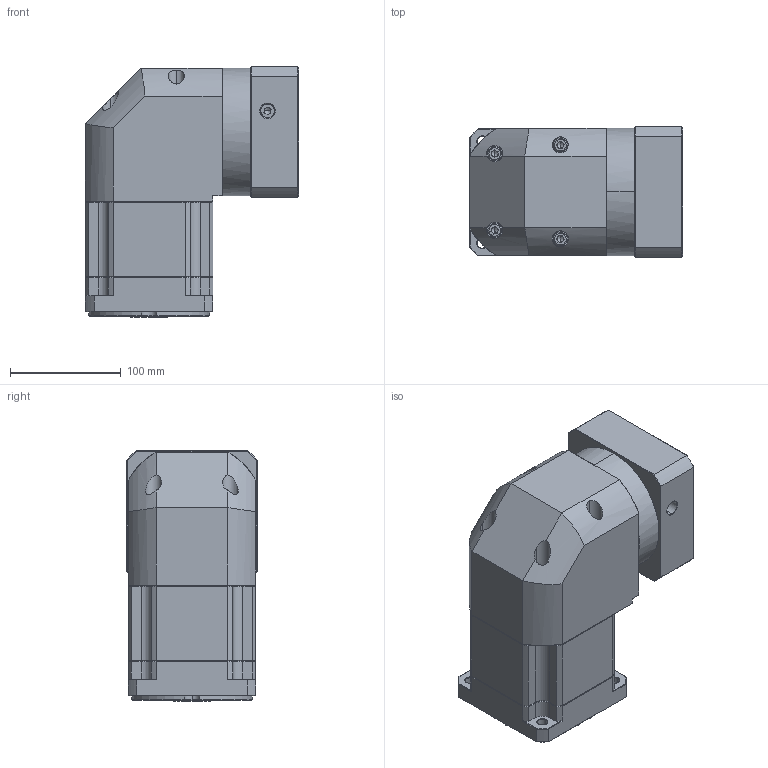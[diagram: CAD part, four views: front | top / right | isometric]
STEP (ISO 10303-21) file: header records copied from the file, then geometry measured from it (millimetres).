
FILE_DESCRIPTION (( 'STEP AP214' ), '1' );
FILE_NAME ('ZBR115A-K25-L2-P2-24-110-130-M8.step', '2023-08-26T12:44:33', ( '' ), ( '' ), 'SwSTEP 2.0', 'SolidWorks 2016', '' );
FILE_SCHEMA (( 'AUTOMOTIVE_DESIGN' ));
Length unit declared in the file: millimetre
Products named in the file (1): ZBR115A-K25-L2-P2-24-110-130-M8
Bounding box: 192.4 x 118 x 226.5 mm (x, y, z)
Volume: 3219117.9 mm3; surface area: 256704.7 mm2
Topology: 6 solids, 6 shells, 2324 faces, 6098 edges, 3878 vertices
Faces by surface type: plane 1132, bspline 415, cylinder 406, cone 363, torus 8
Entity records: 122699 total; most frequent: CARTESIAN_POINT 43239, ORIENTED_EDGE 12140, DIRECTION 9615, EDGE_CURVE 6070, LINE 3939, VECTOR 3939, VERTEX_POINT 3878, AXIS2_PLACEMENT_3D 2838
